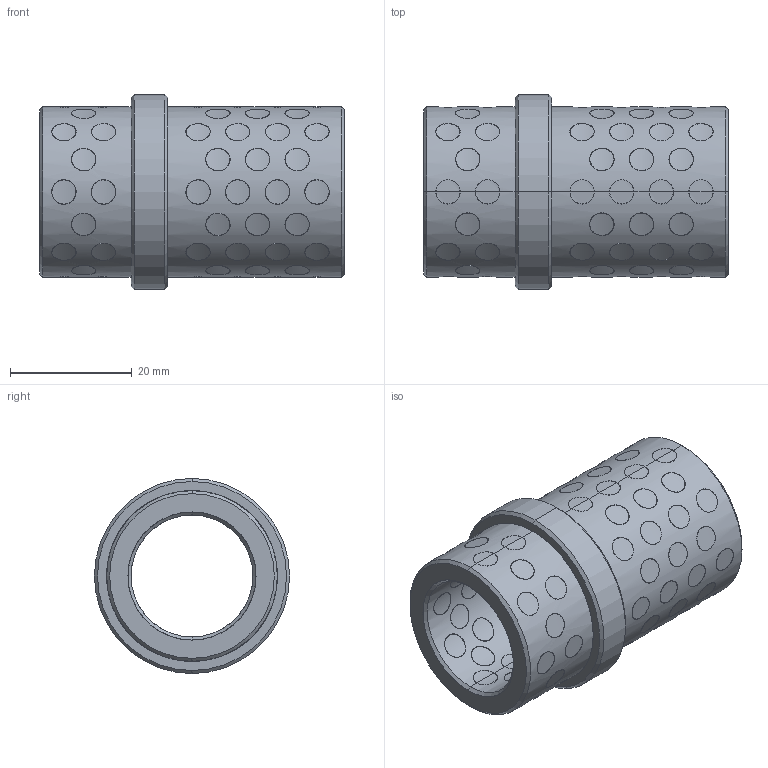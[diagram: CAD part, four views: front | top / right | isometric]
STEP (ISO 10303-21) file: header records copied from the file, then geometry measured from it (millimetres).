
FILE_DESCRIPTION(('CATIA V5 STEP Exchange'),'2;1');
FILE_NAME('C:\Users\Utente\Desktop\3D files G402\G4022035.stp','2020-04-22T08:43:16+00:00',('none'),('none'),'CATIA Version 5 Release 20 GA (IN-10)','CATIA V5 STEP AP203','none');
FILE_SCHEMA(('CONFIG_CONTROL_DESIGN'));
Products named in the file (1): G4022035
Bounding box: 50 x 32 x 32 mm (x, y, z)
Surface area: 16446.8 mm2 (no closed solid volume)
Topology: 0 solids, 528 shells, 528 faces, 2304 edges, 2304 vertices
Faces by surface type: cylinder 512, revolution 12, plane 4
Entity records: 46261 total; most frequent: CARTESIAN_POINT 30320, ORIENTED_EDGE 2304, EDGE_CURVE 2304, VERTEX_POINT 2304, DIRECTION 1867, B_SPLINE_CURVE_WITH_KNOTS 1493, VECTOR 776, LINE 776
